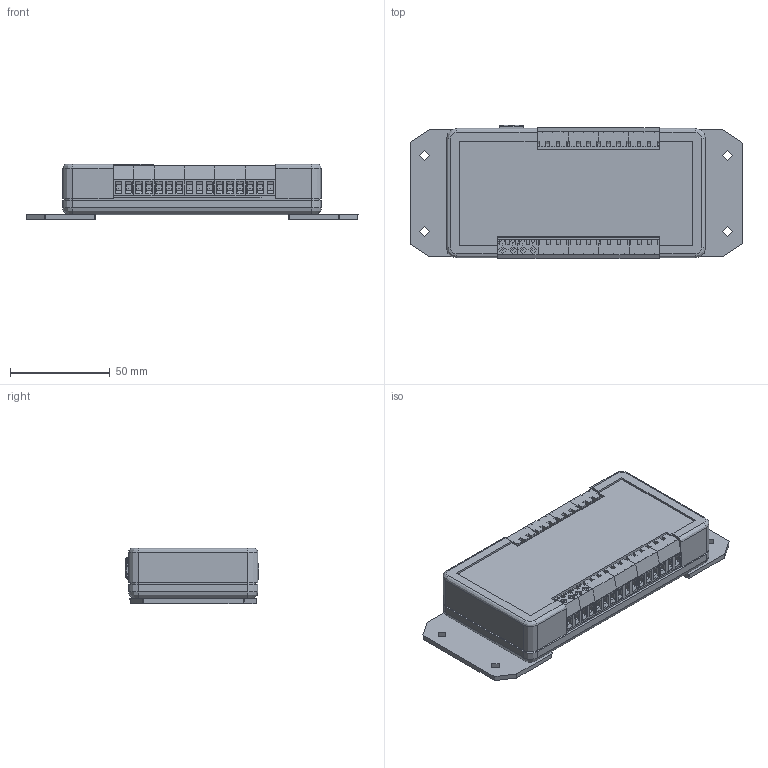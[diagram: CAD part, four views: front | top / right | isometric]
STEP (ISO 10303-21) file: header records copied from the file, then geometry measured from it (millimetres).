
FILE_DESCRIPTION (( 'STEP AP214' ), '1' );
FILE_NAME ('ADU 2X8 Terminal Block, Flange.STEP', '2026-10-01T20:07:22', ( '' ), ( '' ), 'SwSTEP 2.0', 'SolidWorks 2015', '' );
FILE_SCHEMA (( 'AUTOMOTIVE_DESIGN' ));
Length unit declared in the file: millimetre
Products named in the file (40): Wieland_25.163.0353.0_CAD STEP data; USB; 94510A240_BRASS SCREW-TO-EXPAND INSERTS FOR PLASTICS; 90380A106_PHILLIPS THREAD-FORMING SCREW FOR PLASTIC_90380A106; PCB; ADU Base; ADU Top; ADU 2X8 Terminal Block, Flange; 90380A106_PHILLIPS THREAD-FORMING SCREW FOR PLASTIC; Wieland_25.163.0253.0_CAD STEP data; 91420A128_METRIC FLAT HEAD PHILLIPS MACHINE SCREW; Mounting Bracket ADU; 91420A128_METRIC FLAT HEAD PHILLIPS MACHINE SCREW_91420A128; 94510A240_BRASS SCREW-TO-EXPAND INSERTS FOR PLASTICS_94510A240
Assembly tree (40 placements, depth 2):
  Wieland_25.163.0353.0_CAD STEP data
  ADU Top
  Wieland_25.163.0353.0_CAD STEP data
  USB
  Wieland_25.163.0353.0_CAD STEP data
Bounding box: 166.64 x 66.8 x 28.04 mm (x, y, z)
Volume: 92182.9 mm3; surface area: 89824.2 mm2
Topology: 27 solids, 28 shells, 6689 faces, 15823 edges, 9305 vertices
Faces by surface type: bspline 3154, plane 1967, cylinder 1310, cone 230, torus 24, sphere 4
Full cylindrical faces by diameter (mm): 2.15 x4, 3 x144, 3.175 x4, 3.302 x4, 3.4 x4, 3.76 x4, 4 x32, 5 x4, 5.537 x4, 5.563 x4, 5.76 x2, 6 x2, 6.3 x4, 6.5 x4, 7 x8
Entity records: 125500 total; most frequent: CARTESIAN_POINT 78097, ORIENTED_EDGE 10816, DIRECTION 6562, EDGE_CURVE 5412, VERTEX_POINT 3279, LINE 2420, VECTOR 2420, EDGE_LOOP 2413
